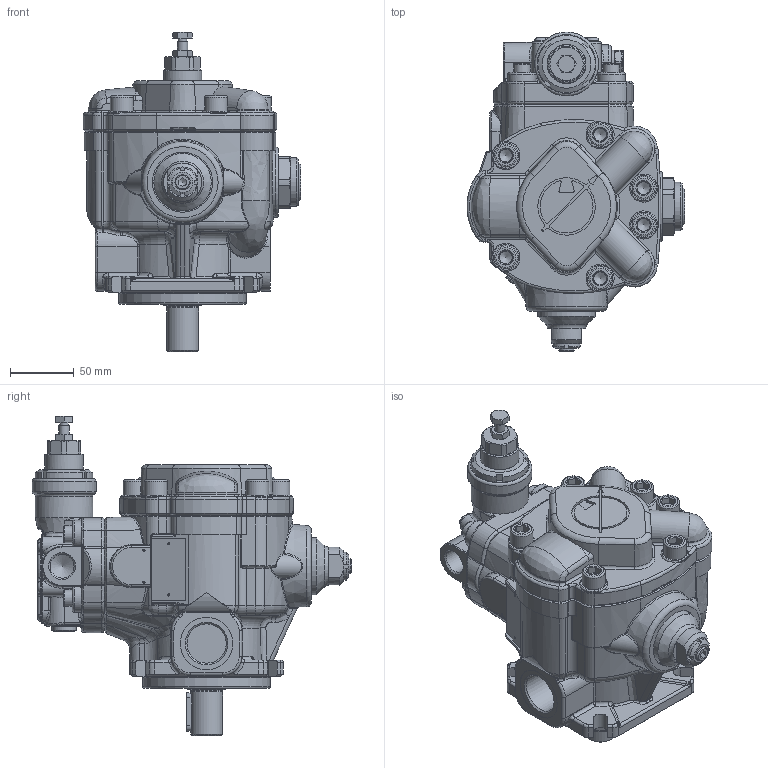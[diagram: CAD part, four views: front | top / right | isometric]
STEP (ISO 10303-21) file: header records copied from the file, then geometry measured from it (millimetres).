
FILE_DESCRIPTION(/* description */ (''),/* implementation_level */ '2;1');
FILE_NAME(/* name */ 'W:\Tecnico\Archivio\Berarma\Dimensioni Pompe\3D Export\Montaggio 3D semplificato\PLP-PHP 1\PHP 1.stp',/* time_stamp */ '2018-10-09T14:54:46+02:00',/* author */ ('marcop'),/* organization */ (''),/* preprocessor_version */ 'ST-DEVELOPER v17',/* originating_system */ 'Autodesk Inventor 2018',/* authorisation */ '');
FILE_SCHEMA (('AUTOMOTIVE_DESIGN { 1 0 10303 214 3 1 1 }'));
Length unit declared in the file: millimetre
Products named in the file (1): PLP-PHP 1_Shrinkwrap_1
Bounding box: 170.45 x 250.2 x 249.7 mm (x, y, z)
Volume: 2348902.8 mm3; surface area: 289711.3 mm2
Topology: 2 solids, 31 shells, 1999 faces, 5014 edges, 3098 vertices
Faces by surface type: cylinder 581, plane 581, bspline 362, torus 252, cone 199, sphere 24
Full cylindrical faces by diameter (mm): 1.7 x4, 2.5 x3, 6.5 x1, 6.647 x4, 6.917 x1, 8 x6, 8.5 x4, 10 x2, 10.106 x6, 10.7 x1, 11.1 x1, 11.445 x4, 12 x8, 12.5 x6, 13 x4, 14 x1, 15 x1, 15.5 x1, 16.5 x1, 16.6 x1, 18 x7, 18.631 x1, 19 x3, 20 x4, 24.5 x2, 25 x1, 27.5 x1, 28.376 x2, 30 x9, 30.75 x1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
Entity records: 73953 total; most frequent: CARTESIAN_POINT 26499, ORIENTED_EDGE 9930, DIRECTION 9053, EDGE_CURVE 4965, AXIS2_PLACEMENT_3D 3738, VERTEX_POINT 3098, EDGE_LOOP 2116, CIRCLE 2047
